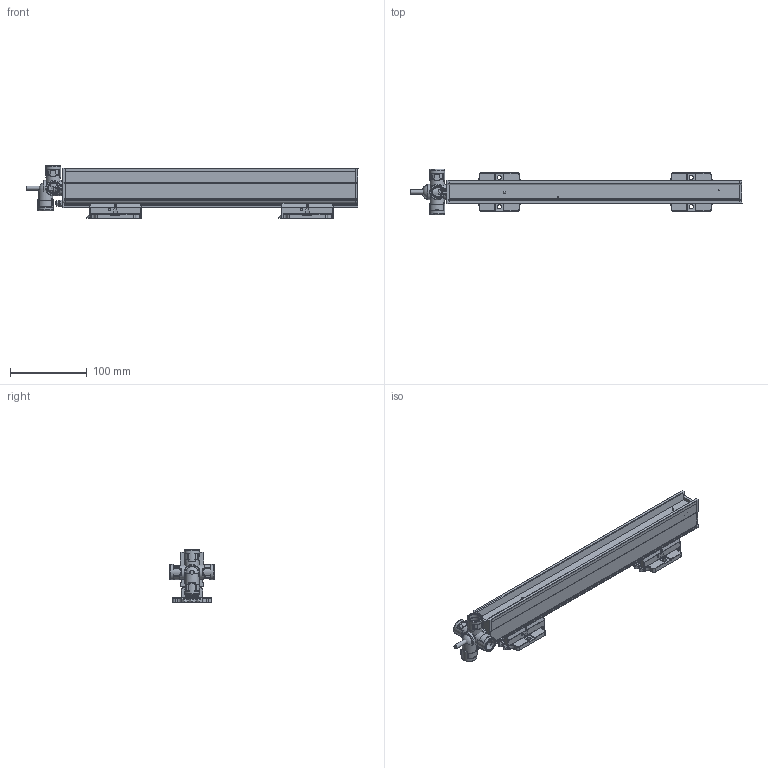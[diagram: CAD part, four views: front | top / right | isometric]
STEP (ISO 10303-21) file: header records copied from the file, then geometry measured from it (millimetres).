
FILE_DESCRIPTION(/* description */ (''),/* implementation_level */ '2;1');
FILE_NAME(/* name */ 'PERFORMAXEASYEX_0210_3D_GB',/* time_stamp */ '2017-05-31T09:44:31+02:00',/* author */ (''),/* organization */ (''),/* preprocessor_version */ 'ST-DEVELOPER v15.7',/* originating_system */ 'HiCAD 2015 2002.1 Build 408',/* authorisation */ '');
FILE_SCHEMA (('AUTOMOTIVE_DESIGN { 1 0 10303 214 1 1 1 1 }'));
Products named in the file (57): Root; -_Performax (IQ) Easy Ex 0210 eff (Speed); -_LED; -_PROFILE; -_POTTING; -_CAP DE; -_CAP CE; -_CABLE; -_PIN; -_COVER; 4532000100_Mounting bracket bars; -_Side piece; -_Slide piece; -_Bracket small; DIN 13-M3; DIN 76-M3; 2047507823_PE connection; DIN 916-M4x20-45H_Set screws; GEWINDE; ISO 8738-4-160 HV_Washers for studs; ISO 4032-M4-10_Hexagon nuts; DIN 127-A 4-FSt_Washers; 2047493713_Cable exits; -_Exit K; -_Clip; -_Gland body; -_Exit S; -_Exit Q; -_Washer ø20mm, 5mm thick for corr. conduit (exit
 Q); -_Exit I; -_Exit U; -_Exit A; Thread_2
Assembly tree (56 placements, depth 5):
  Root
    -_Performax (IQ) Easy Ex 0210 eff (Speed)
      -_LED
      -_PROFILE
      -_POTTING
      -_CAP DE
      -_CAP CE
      -_CABLE
      -_PIN
      -_PIN
      -_COVER
      4532000100_Mounting bracket bars
        -_Side piece
        -_Side piece
        -_Slide piece
        -_Bracket small
          DIN 13-M3
          DIN 13-M3
          DIN 76-M3
          DIN 76-M3
      4532000100_Mounting bracket bars
        -_Side piece
        -_Side piece
        -_Slide piece
        -_Bracket small
          DIN 13-M3
          DIN 13-M3
          DIN 76-M3
          DIN 76-M3
      2047507823_PE connection
        DIN 916-M4x20-45H_Set screws
          GEWINDE
        ISO 8738-4-160 HV_Washers for studs
        ISO 4032-M4-10_Hexagon nuts
          GEWINDE
        DIN 127-A 4-FSt_Washers
        ISO 4032-M4-10_Hexagon nuts
          GEWINDE
      2047493713_Cable exits
        -_Exit K
          -_Clip
          -_Gland body
        -_Exit S
          -_Clip
          -_Gland body
        -_Exit Q
          -_Clip
          -_Washer ø20mm, 5mm thick for corr. conduit (exit
 Q)
          -_Gland body
        -_Exit I
          -_Clip
          -_Gland body
        -_Exit U
          -_Clip
          -_Gland body
        -_Exit A
          Thread_2
Bounding box: 432.4 x 58.79 x 68.9 mm (x, y, z)
Volume: 547038.3 mm3; surface area: 193423.7 mm2
Topology: 47 solids, 53 shells, 1941 faces, 5010 edges, 3074 vertices
Faces by surface type: plane 913, cylinder 739, torus 91, sphere 87, bspline 64, cone 47
Full cylindrical faces by diameter (mm): 2.387 x8, 3 x16, 3.141 x4, 4 x5, 4.3 x1, 5.4 x2, 5.5 x10, 8 x2, 11.3 x4, 12.5 x4, 13 x1, 14.6 x5, 15.1 x5, 18.4 x4, 20 x7, 20.2 x4
Entity records: 107118 total; most frequent: CARTESIAN_POINT 22020, DIRECTION 10074, PRESENTATION_STYLE_ASSIGNMENT 9495, OVER_RIDING_STYLED_ITEM 9449, DRAUGHTING_PRE_DEFINED_CURVE_FONT 9436, CURVE_STYLE 9436, ORIENTED_EDGE 9436, EDGE_CURVE 4718
